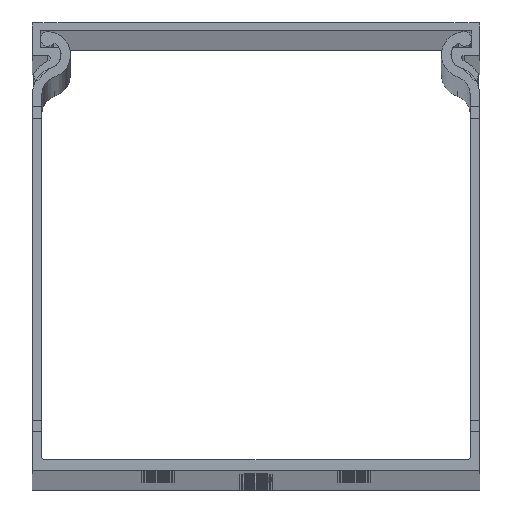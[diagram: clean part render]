
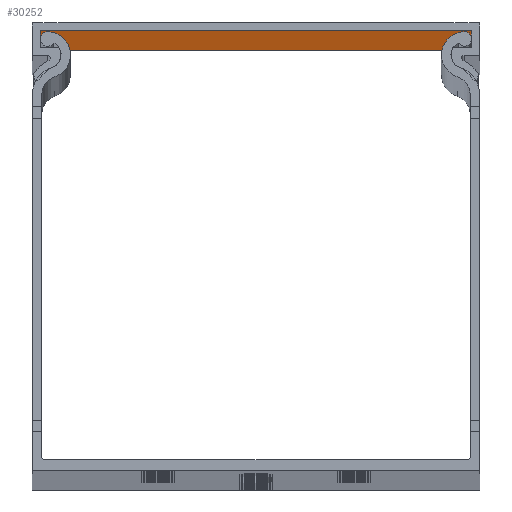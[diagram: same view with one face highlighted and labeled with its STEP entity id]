
A CAD part, top view. The second image highlights one B-rep face of the part: STEP entity #30252.
In plain terms, the highlighted planar face has unit normal (0, -1, 0).
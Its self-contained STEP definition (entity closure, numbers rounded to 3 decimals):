
#416 = EDGE_CURVE ( 'NONE', #31326, #51539, #19838, .T. ) ;
#951 = VECTOR ( 'NONE', #22641, 1000. ) ;
#2755 = EDGE_CURVE ( 'NONE', #23680, #51539, #5569, .T. ) ;
#2883 = LINE ( 'NONE', #55980, #50339 ) ;
#3543 = ORIENTED_EDGE ( 'NONE', *, *, #2755, .T. ) ;
#4124 = CARTESIAN_POINT ( 'NONE',  ( 2606.807, 1295.656, 0. ) ) ;
#4355 = DIRECTION ( 'NONE',  ( 0., 1., 0. ) ) ;
#5569 = LINE ( 'NONE', #25715, #46524 ) ;
#6327 = VERTEX_POINT ( 'NONE', #43859 ) ;
#6426 = EDGE_LOOP ( 'NONE', ( #3543, #9142, #15227, #23395 ) ) ;
#7478 = CARTESIAN_POINT ( 'NONE',  ( 2606.807, 1295.656, 2000. ) ) ;
#9142 = ORIENTED_EDGE ( 'NONE', *, *, #416, .F. ) ;
#15227 = ORIENTED_EDGE ( 'NONE', *, *, #53058, .F. ) ;
#15325 = DIRECTION ( 'NONE',  ( 0., 0., 1. ) ) ;
#17420 = CARTESIAN_POINT ( 'NONE',  ( 2568.407, 1295.656, 2000. ) ) ;
#18405 = DIRECTION ( 'NONE',  ( 0., 0., -1. ) ) ;
#19838 = LINE ( 'NONE', #7478, #56674 ) ;
#21865 = AXIS2_PLACEMENT_3D ( 'NONE', #35929, #4355, #15325 ) ;
#22641 = DIRECTION ( 'NONE',  ( 1., 0., 0. ) ) ;
#23395 = ORIENTED_EDGE ( 'NONE', *, *, #41605, .T. ) ;
#23680 = VERTEX_POINT ( 'NONE', #49067 ) ;
#24003 = FACE_OUTER_BOUND ( 'NONE', #6426, .T. ) ;
#25715 = CARTESIAN_POINT ( 'NONE',  ( 2568.407, 1295.656, 0. ) ) ;
#27901 = CARTESIAN_POINT ( 'NONE',  ( 2606.807, 1295.656, 2000. ) ) ;
#30252 = ADVANCED_FACE ( 'NONE', ( #24003 ), #30880, .F. ) ;
#30790 = DIRECTION ( 'NONE',  ( 1., 0., 0. ) ) ;
#30880 = PLANE ( 'NONE',  #21865 ) ;
#31326 = VERTEX_POINT ( 'NONE', #27901 ) ;
#35929 = CARTESIAN_POINT ( 'NONE',  ( 2568.407, 1295.656, 2000. ) ) ;
#40214 = DIRECTION ( 'NONE',  ( 0., 0., -1. ) ) ;
#41605 = EDGE_CURVE ( 'NONE', #6327, #23680, #2883, .T. ) ;
#43859 = CARTESIAN_POINT ( 'NONE',  ( 2530.007, 1295.656, 2000. ) ) ;
#46524 = VECTOR ( 'NONE', #30790, 1000. ) ;
#49067 = CARTESIAN_POINT ( 'NONE',  ( 2530.007, 1295.656, 0. ) ) ;
#50339 = VECTOR ( 'NONE', #40214, 1000. ) ;
#51539 = VERTEX_POINT ( 'NONE', #4124 ) ;
#53058 = EDGE_CURVE ( 'NONE', #6327, #31326, #63167, .T. ) ;
#55980 = CARTESIAN_POINT ( 'NONE',  ( 2530.007, 1295.656, 2000. ) ) ;
#56674 = VECTOR ( 'NONE', #18405, 1000. ) ;
#63167 = LINE ( 'NONE', #17420, #951 ) ;
